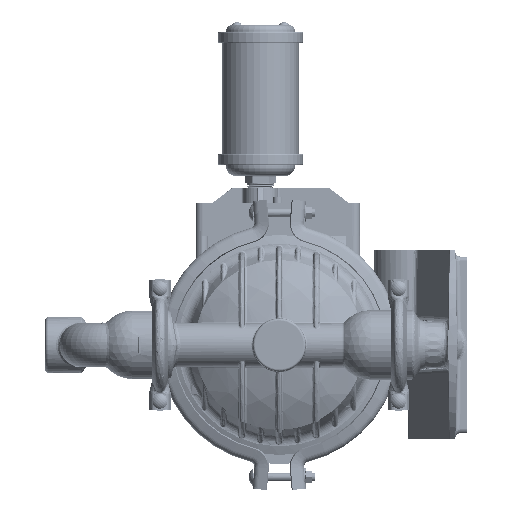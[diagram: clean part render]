
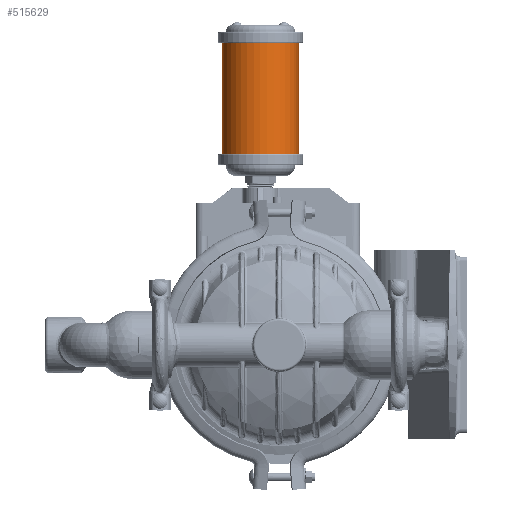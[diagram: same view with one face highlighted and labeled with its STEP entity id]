
A CAD part, left-side view. The second image highlights one B-rep face of the part: STEP entity #515629.
In plain terms, the highlighted cylindrical face has radius 39.243 mm (diameter 78.486 mm), a partial arc.
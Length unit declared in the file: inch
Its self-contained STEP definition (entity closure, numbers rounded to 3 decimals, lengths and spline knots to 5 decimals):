
#738 = CARTESIAN_POINT ( 'NONE',  ( -0.013, -0.784, 7.695 ) ) ;
#9497 = ORIENTED_EDGE ( 'NONE', *, *, #206910, .T. ) ;
#53767 = DIRECTION ( 'NONE',  ( 0., 0., 1. ) ) ;
#65047 = CARTESIAN_POINT ( 'NONE',  ( -0.013, 2.306, 12.174 ) ) ;
#83193 = CARTESIAN_POINT ( 'NONE',  ( -0.013, 0.761, 12.174 ) ) ;
#84524 = LINE ( 'NONE', #124694, #296463 ) ;
#103547 = CARTESIAN_POINT ( 'NONE',  ( -0.013, 0.761, 7.695 ) ) ;
#105608 = EDGE_LOOP ( 'NONE', ( #460054, #9497, #359284, #515470 ) ) ;
#110009 = AXIS2_PLACEMENT_3D ( 'NONE', #83193, #492654, #249069 ) ;
#115990 = DIRECTION ( 'NONE',  ( 0., 0., -1. ) ) ;
#124694 = CARTESIAN_POINT ( 'NONE',  ( -0.013, 2.306, 7.695 ) ) ;
#148523 = VERTEX_POINT ( 'NONE', #158255 ) ;
#158255 = CARTESIAN_POINT ( 'NONE',  ( -0.013, -0.784, 12.174 ) ) ;
#158764 = FACE_OUTER_BOUND ( 'NONE', #105608, .T. ) ;
#160248 = CIRCLE ( 'NONE', #459483, 1.545 ) ;
#161378 = CARTESIAN_POINT ( 'NONE',  ( -0.013, 0.761, 13.199 ) ) ;
#169970 = CIRCLE ( 'NONE', #110009, 1.545 ) ;
#206910 = EDGE_CURVE ( 'NONE', #515580, #148523, #254516, .T. ) ;
#244926 = EDGE_CURVE ( 'NONE', #528203, #515580, #160248, .T. ) ;
#247009 = AXIS2_PLACEMENT_3D ( 'NONE', #161378, #115990, #281885 ) ;
#249069 = DIRECTION ( 'NONE',  ( 0., 1., 0. ) ) ;
#254516 = LINE ( 'NONE', #448076, #264764 ) ;
#264764 = VECTOR ( 'NONE', #53767, 39.37008 ) ;
#281885 = DIRECTION ( 'NONE',  ( 0., -1., 0. ) ) ;
#284313 = VERTEX_POINT ( 'NONE', #65047 ) ;
#296463 = VECTOR ( 'NONE', #456490, 39.37008 ) ;
#304344 = DIRECTION ( 'NONE',  ( 0., 0., 1. ) ) ;
#306956 = DIRECTION ( 'NONE',  ( 0., 1., 0. ) ) ;
#321834 = CARTESIAN_POINT ( 'NONE',  ( -0.013, 2.306, 7.695 ) ) ;
#359284 = ORIENTED_EDGE ( 'NONE', *, *, #377755, .F. ) ;
#377755 = EDGE_CURVE ( 'NONE', #284313, #148523, #169970, .T. ) ;
#419958 = EDGE_CURVE ( 'NONE', #528203, #284313, #84524, .T. ) ;
#448076 = CARTESIAN_POINT ( 'NONE',  ( -0.013, -0.784, 7.695 ) ) ;
#456490 = DIRECTION ( 'NONE',  ( 0., 0., 1. ) ) ;
#459483 = AXIS2_PLACEMENT_3D ( 'NONE', #103547, #304344, #306956 ) ;
#460054 = ORIENTED_EDGE ( 'NONE', *, *, #244926, .T. ) ;
#485271 = CYLINDRICAL_SURFACE ( 'NONE', #247009, 1.545 ) ;
#492654 = DIRECTION ( 'NONE',  ( 0., 0., 1. ) ) ;
#515470 = ORIENTED_EDGE ( 'NONE', *, *, #419958, .F. ) ;
#515580 = VERTEX_POINT ( 'NONE', #738 ) ;
#515629 = ADVANCED_FACE ( 'NONE', ( #158764 ), #485271, .T. ) ;
#528203 = VERTEX_POINT ( 'NONE', #321834 ) ;
